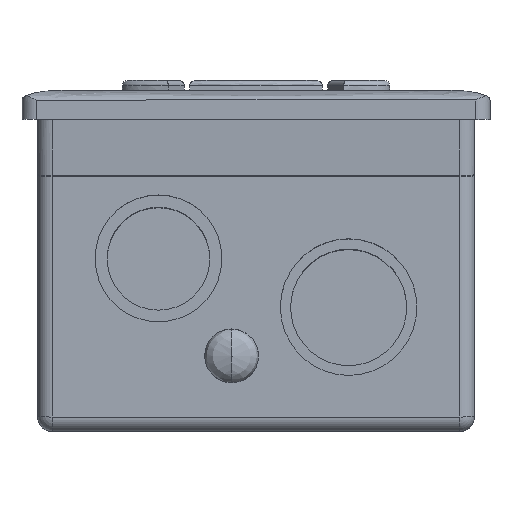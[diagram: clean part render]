
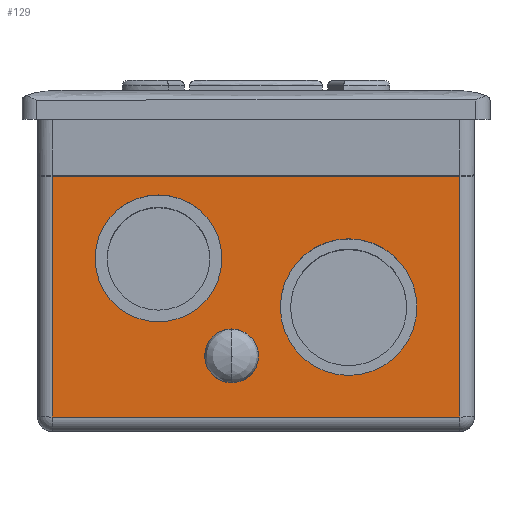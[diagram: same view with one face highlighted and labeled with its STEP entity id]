
A CAD part, front view. The second image highlights one B-rep face of the part: STEP entity #129.
In plain terms, the highlighted planar face has unit normal (0, -1, -0.009).
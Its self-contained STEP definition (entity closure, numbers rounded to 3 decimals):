
#95 = LINE ( 'NONE', #3719, #2062 ) ;
#118 = AXIS2_PLACEMENT_3D ( 'NONE', #1316, #3986, #616 ) ;
#129 = ADVANCED_FACE ( 'NONE', ( #820, #1865, #1806, #2160 ), #1534, .F. ) ;
#156 = DIRECTION ( 'NONE',  ( 0., -0.009, 1. ) ) ;
#192 = ORIENTED_EDGE ( 'NONE', *, *, #2230, .T. ) ;
#270 = DIRECTION ( 'NONE',  ( 0., -0.009, 1. ) ) ;
#360 = EDGE_CURVE ( 'NONE', #2564, #1340, #1055, .T. ) ;
#442 = ORIENTED_EDGE ( 'NONE', *, *, #4194, .F. ) ;
#520 = CARTESIAN_POINT ( 'NONE',  ( -10., -34.124, -14.236 ) ) ;
#616 = DIRECTION ( 'NONE',  ( 0., -0.009, 1. ) ) ;
#662 = CARTESIAN_POINT ( 'NONE',  ( -10., -34.067, -20.736 ) ) ;
#692 = CARTESIAN_POINT ( 'NONE',  ( 9.5, -34.08, -19.236 ) ) ;
#820 = FACE_BOUND ( 'NONE', #2088, .T. ) ;
#867 = VECTOR ( 'NONE', #907, 1000. ) ;
#871 = CARTESIAN_POINT ( 'NONE',  ( -2.5, -34.06, -21.486 ) ) ;
#892 = LINE ( 'NONE', #3624, #2883 ) ;
#907 = DIRECTION ( 'NONE',  ( 1., 0., 0. ) ) ;
#910 = CARTESIAN_POINT ( 'NONE',  ( -10., -34.18, -7.736 ) ) ;
#1055 = CIRCLE ( 'NONE', #2663, 7. ) ;
#1143 = AXIS2_PLACEMENT_3D ( 'NONE', #1622, #2540, #270 ) ;
#1154 = DIRECTION ( 'NONE',  ( 0., -1., -0.009 ) ) ;
#1155 = CIRCLE ( 'NONE', #118, 2.75 ) ;
#1158 = VERTEX_POINT ( 'NONE', #2364 ) ;
#1167 = DIRECTION ( 'NONE',  ( 0., 1., 0.009 ) ) ;
#1198 = DIRECTION ( 'NONE',  ( 0., -1., -0.009 ) ) ;
#1219 = AXIS2_PLACEMENT_3D ( 'NONE', #520, #1154, #2529 ) ;
#1316 = CARTESIAN_POINT ( 'NONE',  ( -2.5, -34.036, -24.236 ) ) ;
#1340 = VERTEX_POINT ( 'NONE', #2249 ) ;
#1367 = DIRECTION ( 'NONE',  ( 0., -0.009, 1. ) ) ;
#1409 = CARTESIAN_POINT ( 'NONE',  ( -2.5, -34.012, -26.986 ) ) ;
#1432 = CARTESIAN_POINT ( 'NONE',  ( 20.9, -33.982, -30.513 ) ) ;
#1500 = AXIS2_PLACEMENT_3D ( 'NONE', #2556, #2148, #156 ) ;
#1516 = VERTEX_POINT ( 'NONE', #910 ) ;
#1534 = PLANE ( 'NONE',  #1890 ) ;
#1560 = CIRCLE ( 'NONE', #1143, 6.5 ) ;
#1562 = AXIS2_PLACEMENT_3D ( 'NONE', #692, #3684, #1367 ) ;
#1622 = CARTESIAN_POINT ( 'NONE',  ( -10., -34.124, -14.236 ) ) ;
#1636 = ORIENTED_EDGE ( 'NONE', *, *, #360, .F. ) ;
#1720 = CIRCLE ( 'NONE', #1500, 2.75 ) ;
#1804 = ORIENTED_EDGE ( 'NONE', *, *, #2018, .F. ) ;
#1806 = FACE_BOUND ( 'NONE', #2334, .T. ) ;
#1865 = FACE_BOUND ( 'NONE', #3401, .T. ) ;
#1889 = LINE ( 'NONE', #4277, #867 ) ;
#1890 = AXIS2_PLACEMENT_3D ( 'NONE', #3810, #1167, #4184 ) ;
#1950 = ORIENTED_EDGE ( 'NONE', *, *, #3829, .T. ) ;
#2018 = EDGE_CURVE ( 'NONE', #1516, #3931, #1560, .T. ) ;
#2062 = VECTOR ( 'NONE', #2448, 1000. ) ;
#2088 = EDGE_LOOP ( 'NONE', ( #2506, #442 ) ) ;
#2148 = DIRECTION ( 'NONE',  ( 0., -1., -0.009 ) ) ;
#2160 = FACE_OUTER_BOUND ( 'NONE', #4247, .T. ) ;
#2230 = EDGE_CURVE ( 'NONE', #3435, #3102, #892, .T. ) ;
#2249 = CARTESIAN_POINT ( 'NONE',  ( 9.5, -34.019, -26.236 ) ) ;
#2262 = ORIENTED_EDGE ( 'NONE', *, *, #2494, .F. ) ;
#2334 = EDGE_LOOP ( 'NONE', ( #1636, #2262 ) ) ;
#2364 = CARTESIAN_POINT ( 'NONE',  ( -20.9, -34.197, -5.802 ) ) ;
#2436 = EDGE_CURVE ( 'NONE', #3911, #3435, #1889, .T. ) ;
#2448 = DIRECTION ( 'NONE',  ( -1., 0., 0. ) ) ;
#2478 = VECTOR ( 'NONE', #3463, 1000. ) ;
#2494 = EDGE_CURVE ( 'NONE', #1340, #2564, #3247, .T. ) ;
#2506 = ORIENTED_EDGE ( 'NONE', *, *, #3929, .F. ) ;
#2508 = CARTESIAN_POINT ( 'NONE',  ( 20.9, -34.197, -5.802 ) ) ;
#2529 = DIRECTION ( 'NONE',  ( 0., -0.009, 1. ) ) ;
#2540 = DIRECTION ( 'NONE',  ( 0., -1., -0.009 ) ) ;
#2556 = CARTESIAN_POINT ( 'NONE',  ( -2.5, -34.036, -24.236 ) ) ;
#2564 = VERTEX_POINT ( 'NONE', #4103 ) ;
#2663 = AXIS2_PLACEMENT_3D ( 'NONE', #3559, #1198, #3979 ) ;
#2712 = EDGE_CURVE ( 'NONE', #3102, #1158, #95, .T. ) ;
#2780 = ORIENTED_EDGE ( 'NONE', *, *, #2436, .T. ) ;
#2804 = ORIENTED_EDGE ( 'NONE', *, *, #2712, .T. ) ;
#2880 = VERTEX_POINT ( 'NONE', #871 ) ;
#2883 = VECTOR ( 'NONE', #3997, 1000. ) ;
#3102 = VERTEX_POINT ( 'NONE', #2508 ) ;
#3130 = CARTESIAN_POINT ( 'NONE',  ( -20.9, -33.969, -32. ) ) ;
#3192 = EDGE_CURVE ( 'NONE', #3931, #1516, #4174, .T. ) ;
#3247 = CIRCLE ( 'NONE', #1562, 7. ) ;
#3401 = EDGE_LOOP ( 'NONE', ( #1804, #3493 ) ) ;
#3435 = VERTEX_POINT ( 'NONE', #1432 ) ;
#3442 = VERTEX_POINT ( 'NONE', #1409 ) ;
#3463 = DIRECTION ( 'NONE',  ( 0., 0.009, -1. ) ) ;
#3493 = ORIENTED_EDGE ( 'NONE', *, *, #3192, .F. ) ;
#3559 = CARTESIAN_POINT ( 'NONE',  ( 9.5, -34.08, -19.236 ) ) ;
#3624 = CARTESIAN_POINT ( 'NONE',  ( 20.9, -34.198, -5.769 ) ) ;
#3684 = DIRECTION ( 'NONE',  ( 0., -1., -0.009 ) ) ;
#3719 = CARTESIAN_POINT ( 'NONE',  ( -22.4, -34.197, -5.802 ) ) ;
#3797 = LINE ( 'NONE', #3130, #2478 ) ;
#3810 = CARTESIAN_POINT ( 'NONE',  ( -24.005, -33.969, -32. ) ) ;
#3829 = EDGE_CURVE ( 'NONE', #1158, #3911, #3797, .T. ) ;
#3911 = VERTEX_POINT ( 'NONE', #4338 ) ;
#3929 = EDGE_CURVE ( 'NONE', #2880, #3442, #1155, .T. ) ;
#3931 = VERTEX_POINT ( 'NONE', #662 ) ;
#3979 = DIRECTION ( 'NONE',  ( 0., -0.009, 1. ) ) ;
#3986 = DIRECTION ( 'NONE',  ( 0., -1., -0.009 ) ) ;
#3997 = DIRECTION ( 'NONE',  ( 0., -0.009, 1. ) ) ;
#4103 = CARTESIAN_POINT ( 'NONE',  ( 9.5, -34.141, -12.236 ) ) ;
#4174 = CIRCLE ( 'NONE', #1219, 6.5 ) ;
#4184 = DIRECTION ( 'NONE',  ( 0., -0.009, 1. ) ) ;
#4194 = EDGE_CURVE ( 'NONE', #3442, #2880, #1720, .T. ) ;
#4247 = EDGE_LOOP ( 'NONE', ( #1950, #2780, #192, #2804 ) ) ;
#4277 = CARTESIAN_POINT ( 'NONE',  ( -24.005, -33.982, -30.513 ) ) ;
#4338 = CARTESIAN_POINT ( 'NONE',  ( -20.9, -33.982, -30.513 ) ) ;
